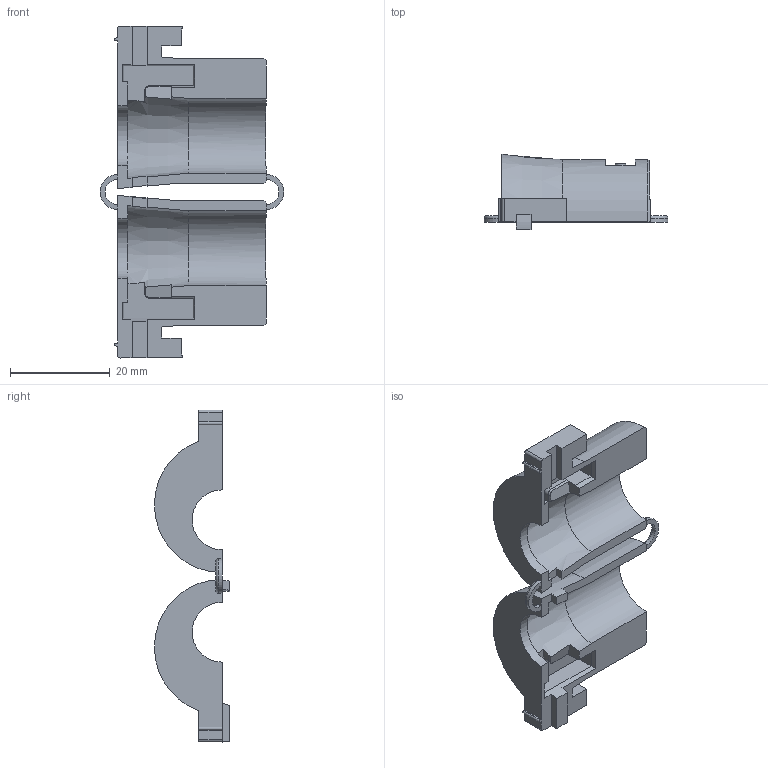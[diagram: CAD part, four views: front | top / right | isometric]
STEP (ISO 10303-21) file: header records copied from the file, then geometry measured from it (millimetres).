
FILE_DESCRIPTION(/* description */ (''),/* implementation_level */ '2;1');
FILE_NAME(/* name */ 'C:\SapWorkDir\Inventor\MP1\ConvertTempPath\87_12_121512_00_B_220623_ATG-X.stp',/* time_stamp */ '2022-06-23T10:57:21+02:00',/* author */ ('BAUER'),/* organization */ (''),/* preprocessor_version */ 'ST-DEVELOPER v16.13',/* originating_system */ 'Autodesk Inventor 2018',/* authorisation */ '');
FILE_SCHEMA (('AUTOMOTIVE_DESIGN { 1 0 10303 214 3 1 1 }'));
Length unit declared in the file: millimetre
Products named in the file (4): 121512; 121513; 121514; Lasche
Assembly tree (4 placements, depth 2):
  121512
    121513
    121514
    Lasche  x2
Bounding box: 36.82 x 15.07 x 66.5 mm (x, y, z)
Volume: 9525.9 mm3; surface area: 6254 mm2
Topology: 6 solids, 6 shells, 286 faces, 774 edges, 512 vertices
Faces by surface type: plane 205, bspline 48, cylinder 24, cone 7, torus 2
Entity records: 9544 total; most frequent: CARTESIAN_POINT 2286, ORIENTED_EDGE 1528, DIRECTION 1218, EDGE_CURVE 762, LINE 590, VECTOR 590, VERTEX_POINT 504, AXIS2_PLACEMENT_3D 314
